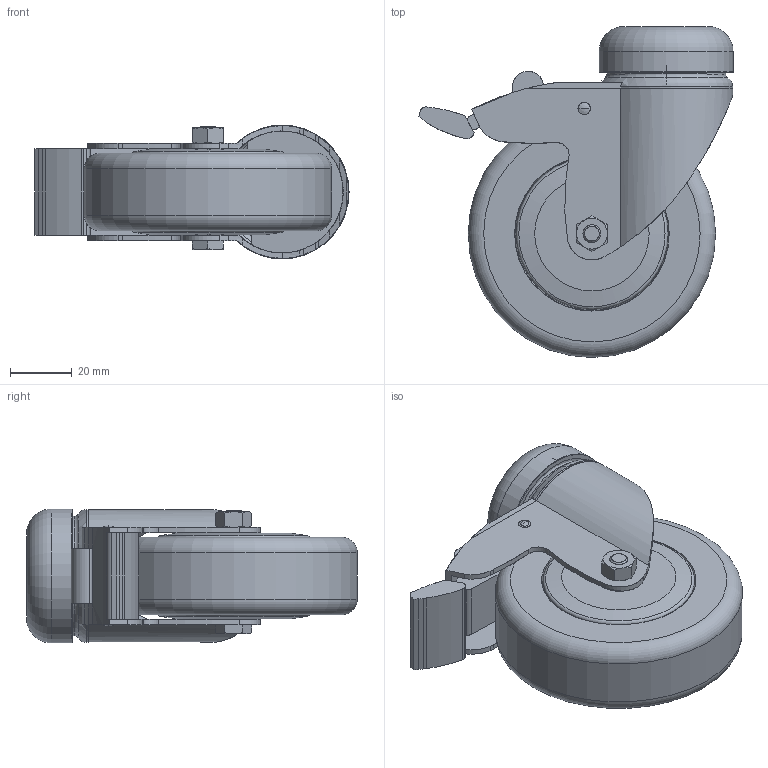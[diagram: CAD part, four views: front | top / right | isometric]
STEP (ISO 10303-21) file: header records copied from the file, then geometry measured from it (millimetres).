
FILE_DESCRIPTION(/* description */ ('INDUSTRIAL CASTOR WITH BRAKE SS Ø80 H=107'),/* implementation_level */ '2;1');
FILE_NAME(/* name */ '500-1126.stp',/* time_stamp */ '2022-09-16T08:08:24+02:00',/* author */ ('MD'),/* organization */ ('TELLUS 25310'),/* preprocessor_version */ 'ST-DEVELOPER v19.2',/* originating_system */ 'Autodesk Inventor 2023',/* authorisation */ '');
FILE_SCHEMA (('AUTOMOTIVE_DESIGN { 1 0 10303 214 3 1 1 }'));
Length unit declared in the file: millimetre
Products named in the file (1): 500-1126
Bounding box: 101.6 x 107 x 43.31 mm (x, y, z)
Volume: 142057.6 mm3; surface area: 52169.3 mm2
Topology: 2 solids, 231 shells, 274 faces, 1246 edges, 1211 vertices
Faces by surface type: cylinder 101, plane 85, torus 50, cone 32, bspline 6
Full cylindrical faces by diameter (mm): 6 x2, 8.6 x2, 11 x1, 12 x1, 16 x2, 43.3 x1, 45.102 x2, 50 x2, 80 x1
Entity records: 22858 total; most frequent: CARTESIAN_POINT 12721, DIRECTION 1940, ORIENTED_EDGE 1334, EDGE_CURVE 1242, VERTEX_POINT 1211, AXIS2_PLACEMENT_3D 737, LINE 466, VECTOR 466
